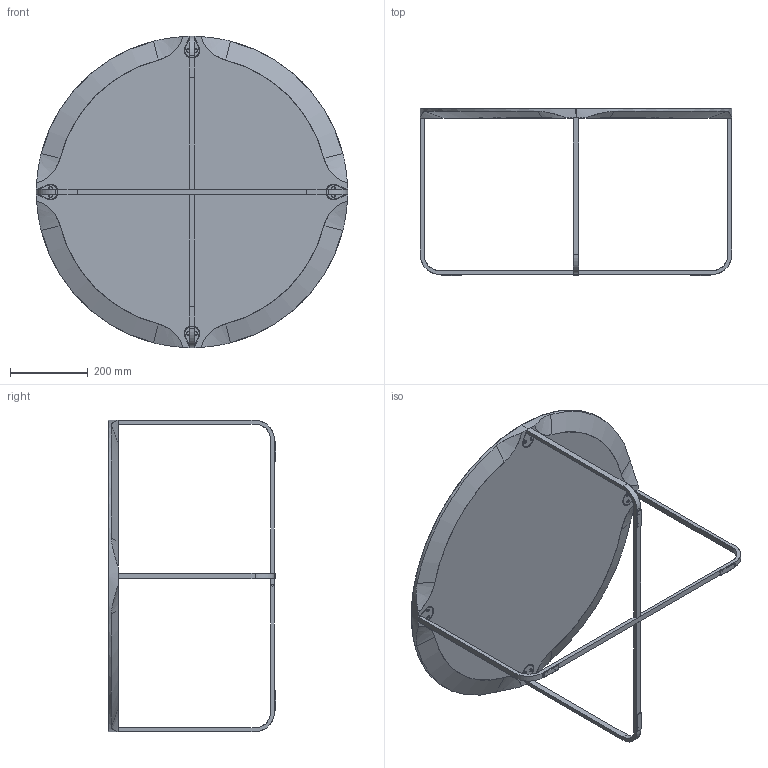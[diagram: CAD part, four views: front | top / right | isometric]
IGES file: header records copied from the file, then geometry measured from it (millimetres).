
Start section: SolidWorks IGES file using analytic representation for surfaces
Global section: file name: G:\CAD-FILES\3D Montis\3D_IGS\Flint tafel 0800-430.IGS; native system: SolidWorks 2007; preprocessor: SolidWorks 2007; author: gerard; date: 060929.091109; units: millimetre
Bounding box: 800 x 430 x 800 mm (x, y, z)
Surface area: 1208522.2 mm2 (no closed solid volume)
Topology: 0 solids, 0 shells, 186 faces, 2958 edges, 2958 vertices
Faces by surface type: revolution 108, bspline 78
